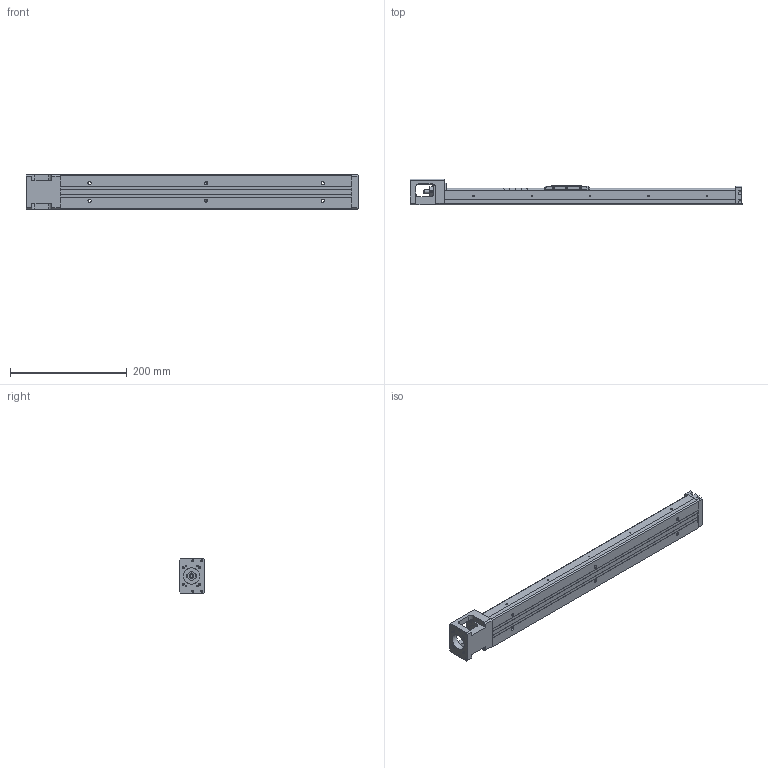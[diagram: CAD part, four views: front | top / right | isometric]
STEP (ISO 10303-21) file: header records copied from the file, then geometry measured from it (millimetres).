
FILE_DESCRIPTION(/* description */ (''),/* implementation_level */ '2;1');
FILE_NAME(/* name */ 'KP33N-500C02-1.stp',/* time_stamp */ '2020-07-01T11:44:59+08:00',/* author */ (''),/* organization */ (''),/* preprocessor_version */ 'ST-DEVELOPER v14',/* originating_system */ 'SIEMENS PLM Software NX 8.0',/* authorisation */ '');
FILE_SCHEMA (('AUTOMOTIVE_DESIGN { 1 0 10303 214 3 1 1 1 }'));
Length unit declared in the file: millimetre
Products named in the file (1): model1
Bounding box: 569.5 x 44.45 x 60 mm (x, y, z)
Volume: 607476.1 mm3; surface area: 169188.2 mm2
Topology: 5 solids, 14 shells, 642 faces, 1621 edges, 1068 vertices
Faces by surface type: plane 377, cylinder 182, bspline 31, cone 22, extrusion 21, torus 7, sphere 2
Full cylindrical faces by diameter (mm): 1.6 x5, 1.65 x4, 2.15 x5, 2.42 x4, 2.45 x2, 2.5 x12, 3 x3, 3.2 x4, 3.3 x4, 3.4 x3, 3.5 x10, 3.969 x1, 4 x6, 4.001 x1, 4.135 x4, 5.5 x6, 6 x5, 7.6 x1, 8 x5, 9.5 x6, 10.72 x3, 11.8 x2, 12 x6, 12.8 x1, 13 x2, 14 x1, 16 x4, 21.5 x1, 28 x1
Entity records: 29770 total; most frequent: CARTESIAN_POINT 15181, DIRECTION 2927, ORIENTED_EDGE 2820, EDGE_CURVE 1410, AXIS2_PLACEMENT_3D 1038, VERTEX_POINT 998, EDGE_LOOP 904, VECTOR 851
